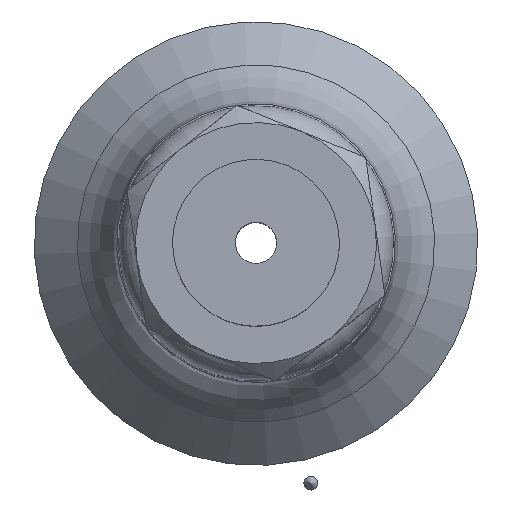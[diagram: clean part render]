
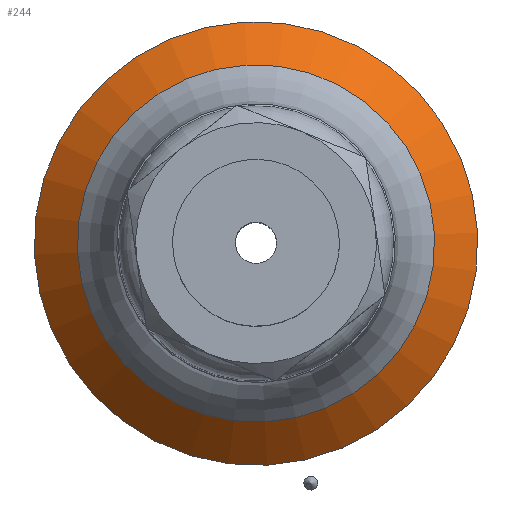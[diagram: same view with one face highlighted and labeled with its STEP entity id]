
A CAD part, top view. The second image highlights one B-rep face of the part: STEP entity #244.
In plain terms, the highlighted conical face has half-angle 45.429 degrees and reference radius 11.636 mm.
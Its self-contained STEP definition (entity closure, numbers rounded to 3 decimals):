
#244=ADVANCED_FACE('',(#457,#458),#459,.T.);
#457=FACE_BOUND('',#653,.T.);
#458=FACE_OUTER_BOUND('',#654,.T.);
#459=CONICAL_SURFACE('',#655,11.636,0.793);
#653=EDGE_LOOP('',(#1001));
#654=EDGE_LOOP('',(#1002));
#655=AXIS2_PLACEMENT_3D('',#1003,#1004,#1005);
#1001=ORIENTED_EDGE('',*,*,#1151,.T.);
#1002=ORIENTED_EDGE('',*,*,#1148,.F.);
#1003=CARTESIAN_POINT('',(0.0,0.,1.632));
#1004=DIRECTION('',(0.0,0.,-1.0));
#1005=DIRECTION('',(1.0,0.0,0.0));
#1148=EDGE_CURVE('',#1307,#1307,#1308,.T.);
#1151=EDGE_CURVE('',#1312,#1312,#1313,.T.);
#1307=VERTEX_POINT('',#1756);
#1308=CIRCLE('',#1757,12.891);
#1312=VERTEX_POINT('',#1761);
#1313=CIRCLE('',#1762,10.381);
#1756=CARTESIAN_POINT('',(12.891,0.,0.396));
#1757=AXIS2_PLACEMENT_3D('',#1879,#1880,#1881);
#1761=CARTESIAN_POINT('',(0.0,10.381,2.869));
#1762=AXIS2_PLACEMENT_3D('',#1885,#1886,#1887);
#1879=CARTESIAN_POINT('',(0.0,0.,0.396));
#1880=DIRECTION('',(0.0,0.,-1.0));
#1881=DIRECTION('',(1.0,0.0,0.0));
#1885=CARTESIAN_POINT('',(0.0,0.,2.869));
#1886=DIRECTION('',(0.0,0.,-1.0));
#1887=DIRECTION('',(0.0,1.0,0.));
